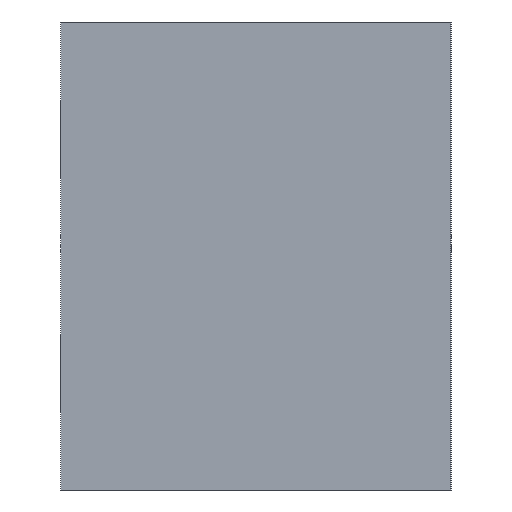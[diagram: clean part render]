
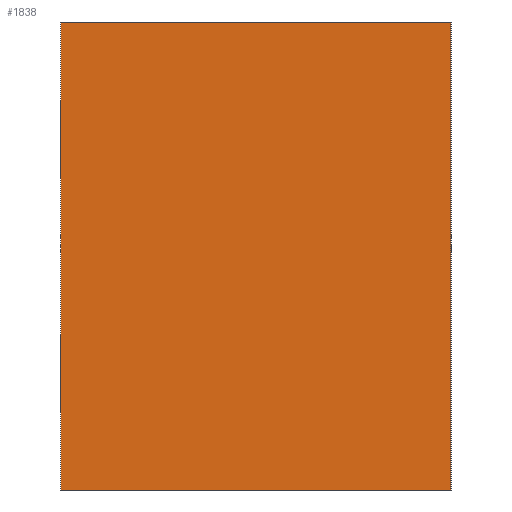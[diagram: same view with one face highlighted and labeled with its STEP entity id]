
A CAD part, left-side view. The second image highlights one B-rep face of the part: STEP entity #1838.
In plain terms, the highlighted planar face has unit normal (1, 0, 0).
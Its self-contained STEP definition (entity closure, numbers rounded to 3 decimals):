
#1799=CARTESIAN_POINT('Axis2P3D Location',(-150.,0.,0.)) ;
#1804=CARTESIAN_POINT('Line Origine',(-150.,0.,-30.)) ;
#1808=CARTESIAN_POINT('Vertex',(-150.,-12.5,-30.)) ;
#1810=CARTESIAN_POINT('Vertex',(-150.,12.5,-30.)) ;
#1813=CARTESIAN_POINT('Line Origine',(-150.,12.5,-15.)) ;
#1817=CARTESIAN_POINT('Vertex',(-150.,12.5,0.)) ;
#1820=CARTESIAN_POINT('Line Origine',(-150.,0.,0.)) ;
#1824=CARTESIAN_POINT('Vertex',(-150.,-12.5,0.)) ;
#1827=CARTESIAN_POINT('Line Origine',(-150.,-12.5,-15.)) ;
#1800=DIRECTION('Axis2P3D Direction',(1.,0.,0.)) ;
#1801=DIRECTION('Axis2P3D XDirection',(0.,1.,0.)) ;
#1805=DIRECTION('Vector Direction',(0.,1.,0.)) ;
#1814=DIRECTION('Vector Direction',(0.,0.,1.)) ;
#1821=DIRECTION('Vector Direction',(0.,-1.,0.)) ;
#1828=DIRECTION('Vector Direction',(0.,0.,-1.)) ;
#1802=AXIS2_PLACEMENT_3D('Plane Axis2P3D',#1799,#1800,#1801) ;
#1833=ORIENTED_EDGE('',*,*,#1812,.T.) ;
#1834=ORIENTED_EDGE('',*,*,#1819,.T.) ;
#1835=ORIENTED_EDGE('',*,*,#1826,.T.) ;
#1836=ORIENTED_EDGE('',*,*,#1831,.T.) ;
#1806=VECTOR('Line Direction',#1805,1.) ;
#1815=VECTOR('Line Direction',#1814,1.) ;
#1822=VECTOR('Line Direction',#1821,1.) ;
#1829=VECTOR('Line Direction',#1828,1.) ;
#1838=ADVANCED_FACE('MANIFOLD_SOLID_BREP #7846',(#1837),#1803,.T.) ;
#1812=EDGE_CURVE('',#1809,#1811,#1807,.T.) ;
#1819=EDGE_CURVE('',#1811,#1818,#1816,.T.) ;
#1826=EDGE_CURVE('',#1818,#1825,#1823,.T.) ;
#1831=EDGE_CURVE('',#1825,#1809,#1830,.T.) ;
#1832=EDGE_LOOP('',(#1833,#1834,#1835,#1836)) ;
#1837=FACE_OUTER_BOUND('',#1832,.T.) ;
#1807=LINE('Line',#1804,#1806) ;
#1816=LINE('Line',#1813,#1815) ;
#1823=LINE('Line',#1820,#1822) ;
#1830=LINE('Line',#1827,#1829) ;
#1803=PLANE('Plane',#1802) ;
#1809=VERTEX_POINT('',#1808) ;
#1811=VERTEX_POINT('',#1810) ;
#1818=VERTEX_POINT('',#1817) ;
#1825=VERTEX_POINT('',#1824) ;
